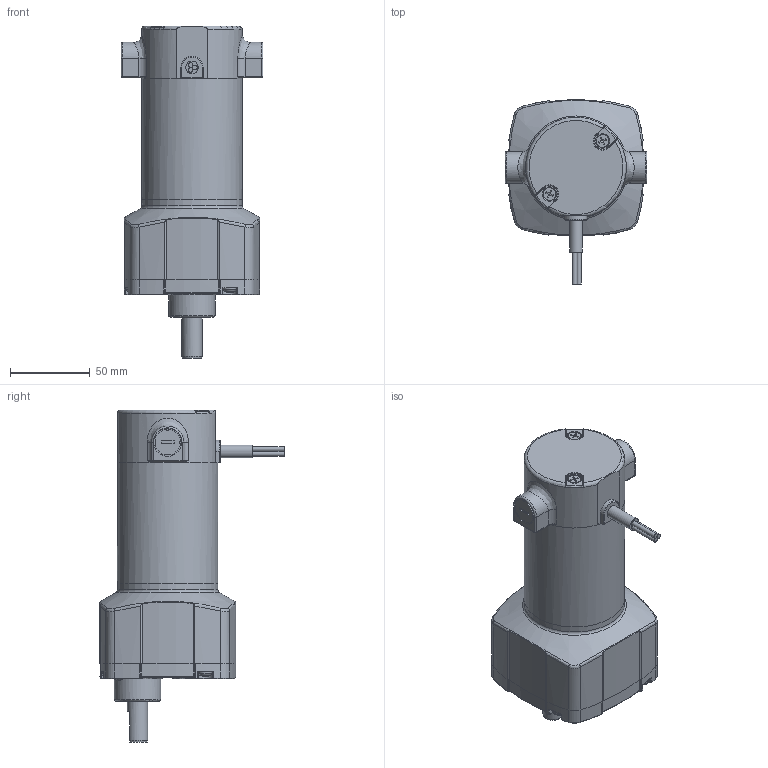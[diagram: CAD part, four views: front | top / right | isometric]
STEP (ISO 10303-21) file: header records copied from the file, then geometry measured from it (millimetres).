
FILE_DESCRIPTION((''),'2;1');
FILE_NAME('D:\yang\Yang cw\SPG 업무\2. DC MOTOR\7. DC MOTOR 브로슈어\BS2 SERIES DC GEARED MOTOR\3D\BS24DA.stp','2015-03-31T13:41:52',('ycw1227'),(''),'Autodesk Inventor 2013','Autodesk Inventor 2013','');
FILE_SCHEMA(('AUTOMOTIVE_DESIGN { 1 0 10303 214 1 1 1 1 }'));
Length unit declared in the file: millimetre
Products named in the file (1): 부품42
Bounding box: 89 x 115.54 x 208.13 mm (x, y, z)
Volume: 604071.6 mm3; surface area: 78825.6 mm2
Topology: 1 solids, 11 shells, 798 faces, 1947 edges, 1196 vertices
Faces by surface type: plane 266, cylinder 234, torus 129, bspline 78, cone 75, sphere 16
Full cylindrical faces by diameter (mm): 2 x1, 3 x3, 3.962 x4, 4 x6, 4.112 x1, 4.5 x2, 4.7 x4, 6 x4, 8 x7, 12.7 x1, 13 x2, 17.55 x2, 19 x1, 22 x2, 29 x1, 63 x2, 76.5 x1, 77 x1, 79 x2
Entity records: 26857 total; most frequent: CARTESIAN_POINT 8910, ORIENTED_EDGE 3676, DIRECTION 3666, EDGE_CURVE 1838, AXIS2_PLACEMENT_3D 1556, VERTEX_POINT 1167, EDGE_LOOP 915, CIRCLE 801
